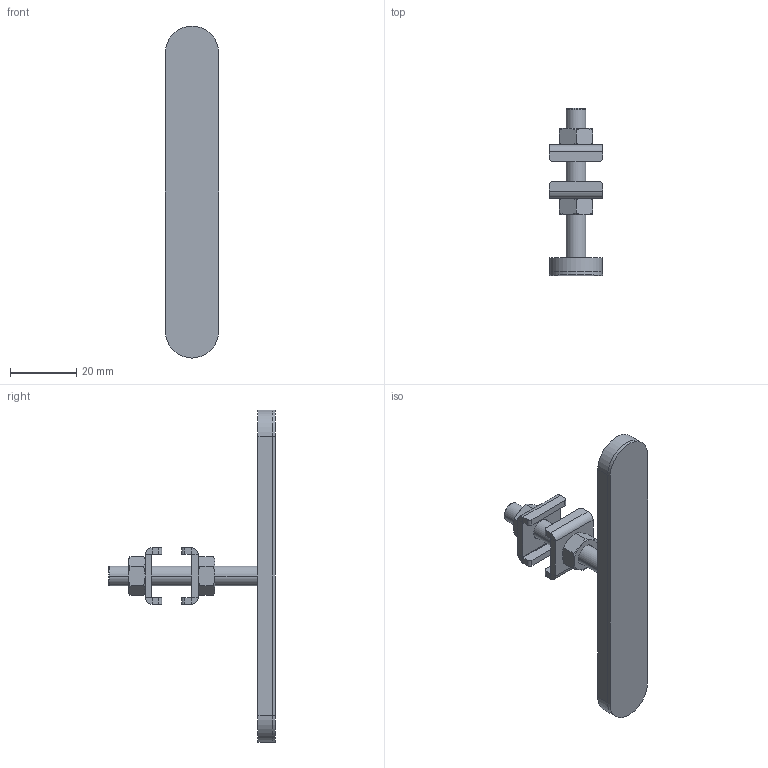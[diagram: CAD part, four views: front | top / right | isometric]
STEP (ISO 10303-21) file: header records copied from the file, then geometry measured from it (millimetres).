
FILE_DESCRIPTION (( 'STEP AP203' ), '1' );
FILE_NAME ('PFA-M6.STEP', '2011-05-24T13:14:47', ( 'Usuario' ), ( '' ), 'SwSTEP 2.0', 'SolidWorks 2011', '' );
FILE_SCHEMA (( 'CONFIG_CONTROL_DESIGN' ));
Length unit declared in the file: millimetre
Products named in the file (6): PFA-M6; 14.10004; 11.50001; 20.20017; 20.20021; 20.20020
Assembly tree (7 placements, depth 2):
  PFA-M6
    20.20017
    20.20021
    14.10004  x2
    20.20020
    11.50001  x2
Bounding box: 16 x 50.25 x 100 mm (x, y, z)
Volume: 11308.1 mm3; surface area: 10612.8 mm2
Topology: 7 solids, 7 shells, 128 faces, 274 edges, 160 vertices
Faces by surface type: plane 62, cone 36, cylinder 30
Entity records: 2724 total; most frequent: CARTESIAN_POINT 452, DIRECTION 356, ORIENTED_EDGE 312, EDGE_CURVE 156, AXIS2_PLACEMENT_3D 140, VERTEX_POINT 92, EDGE_LOOP 78, VECTOR 76
